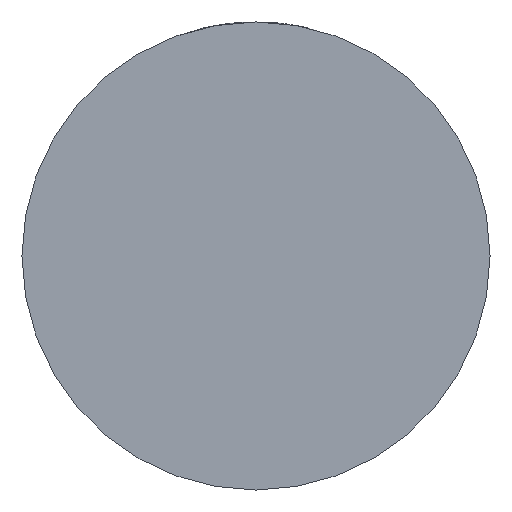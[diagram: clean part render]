
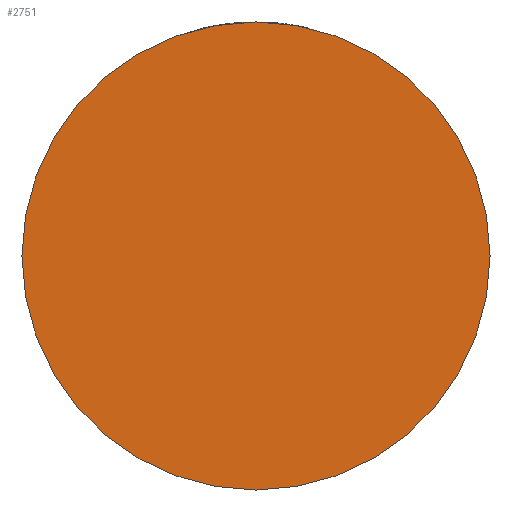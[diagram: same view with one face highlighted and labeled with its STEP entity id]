
A CAD part, front view. The second image highlights one B-rep face of the part: STEP entity #2751.
In plain terms, the highlighted planar face has unit normal (0, -1, 0).
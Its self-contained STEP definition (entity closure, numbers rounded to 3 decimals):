
#62 = CARTESIAN_POINT ( 'NONE',  ( 40., -28., 0. ) ) ;
#91 = DIRECTION ( 'NONE',  ( 0., -1., 0. ) ) ;
#123 = AXIS2_PLACEMENT_3D ( 'NONE', #2809, #91, #2054 ) ;
#538 = AXIS2_PLACEMENT_3D ( 'NONE', #1919, #1256, #2976 ) ;
#1256 = DIRECTION ( 'NONE',  ( 0., -1., 0. ) ) ;
#1263 = FACE_OUTER_BOUND ( 'NONE', #3803, .T. ) ;
#1598 = DIRECTION ( 'NONE',  ( 1., 0., 0. ) ) ;
#1600 = ORIENTED_EDGE ( 'NONE', *, *, #2393, .T. ) ;
#1919 = CARTESIAN_POINT ( 'NONE',  ( 0., -28., 0. ) ) ;
#2054 = DIRECTION ( 'NONE',  ( 1., 0., 0. ) ) ;
#2108 = ORIENTED_EDGE ( 'NONE', *, *, #3743, .T. ) ;
#2393 = EDGE_CURVE ( 'NONE', #2863, #4269, #3177, .T. ) ;
#2751 = ADVANCED_FACE ( 'NONE', ( #1263 ), #3561, .T. ) ;
#2782 = CARTESIAN_POINT ( 'NONE',  ( -40., -28., 0. ) ) ;
#2809 = CARTESIAN_POINT ( 'NONE',  ( 0., -28., 0. ) ) ;
#2863 = VERTEX_POINT ( 'NONE', #62 ) ;
#2976 = DIRECTION ( 'NONE',  ( 1., 0., 0. ) ) ;
#2978 = CIRCLE ( 'NONE', #123, 40. ) ;
#3177 = CIRCLE ( 'NONE', #538, 40. ) ;
#3294 = CARTESIAN_POINT ( 'NONE',  ( 0., -28., 0. ) ) ;
#3561 = PLANE ( 'NONE',  #4257 ) ;
#3743 = EDGE_CURVE ( 'NONE', #4269, #2863, #2978, .T. ) ;
#3803 = EDGE_LOOP ( 'NONE', ( #2108, #1600 ) ) ;
#3966 = DIRECTION ( 'NONE',  ( 0., -1., 0. ) ) ;
#4257 = AXIS2_PLACEMENT_3D ( 'NONE', #3294, #3966, #1598 ) ;
#4269 = VERTEX_POINT ( 'NONE', #2782 ) ;
